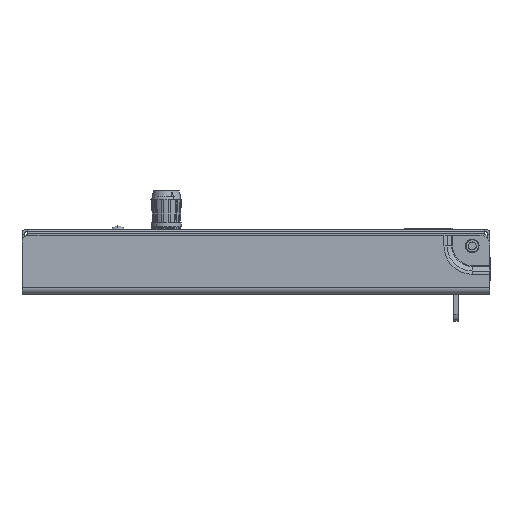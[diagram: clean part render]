
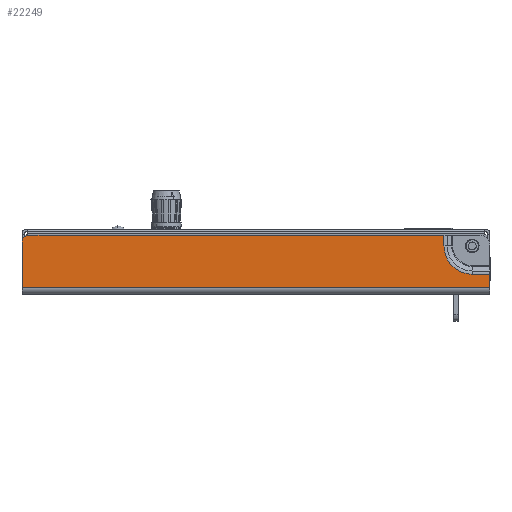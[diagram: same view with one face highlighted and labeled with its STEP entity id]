
A CAD part, left-side view. The second image highlights one B-rep face of the part: STEP entity #22249.
In plain terms, the highlighted planar face has unit normal (-1, 0, 0).
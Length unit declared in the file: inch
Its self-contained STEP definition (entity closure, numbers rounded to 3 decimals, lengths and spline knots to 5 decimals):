
#328 = LINE ( 'NONE', #2134, #6489 ) ;
#1496 = DIRECTION ( 'NONE',  ( 0., 1., 0. ) ) ;
#1876 = EDGE_CURVE ( 'NONE', #25169, #22081, #26589, .T. ) ;
#2134 = CARTESIAN_POINT ( 'NONE',  ( -0.165, 0.8584, -1.11 ) ) ;
#2783 = VERTEX_POINT ( 'NONE', #13319 ) ;
#3261 = DIRECTION ( 'NONE',  ( 0., -1., 0. ) ) ;
#3418 = AXIS2_PLACEMENT_3D ( 'NONE', #26476, #3651, #28695 ) ;
#3601 = PLANE ( 'NONE',  #21148 ) ;
#3651 = DIRECTION ( 'NONE',  ( -1., 0., 0. ) ) ;
#4651 = ORIENTED_EDGE ( 'NONE', *, *, #25671, .F. ) ;
#4796 = CARTESIAN_POINT ( 'NONE',  ( -0.165, 0., -1.09 ) ) ;
#4824 = ORIENTED_EDGE ( 'NONE', *, *, #8398, .F. ) ;
#5810 = FACE_OUTER_BOUND ( 'NONE', #12556, .T. ) ;
#5840 = DIRECTION ( 'NONE',  ( 0., 0., -1. ) ) ;
#6116 = CARTESIAN_POINT ( 'NONE',  ( -0.165, 8.72, -0.11 ) ) ;
#6489 = VECTOR ( 'NONE', #6579, 39.37008 ) ;
#6579 = DIRECTION ( 'NONE',  ( 0., 0., -1. ) ) ;
#6886 = VECTOR ( 'NONE', #22677, 39.37008 ) ;
#7122 = VERTEX_POINT ( 'NONE', #15969 ) ;
#7208 = ORIENTED_EDGE ( 'NONE', *, *, #17037, .F. ) ;
#7318 = EDGE_CURVE ( 'NONE', #29050, #26933, #11208, .T. ) ;
#8067 = LINE ( 'NONE', #19465, #12601 ) ;
#8398 = EDGE_CURVE ( 'NONE', #16644, #29050, #16190, .T. ) ;
#8596 = CARTESIAN_POINT ( 'NONE',  ( -0.165, 0., -0.8384 ) ) ;
#8649 = CARTESIAN_POINT ( 'NONE',  ( -0.165, 8.72, -1.09 ) ) ;
#8727 = EDGE_CURVE ( 'NONE', #9984, #7122, #13840, .T. ) ;
#9984 = VERTEX_POINT ( 'NONE', #21973 ) ;
#10356 = CARTESIAN_POINT ( 'NONE',  ( -0.165, 8.72, -0.11 ) ) ;
#10411 = CARTESIAN_POINT ( 'NONE',  ( -0.165, 8.59, -0.24 ) ) ;
#10558 = DIRECTION ( 'NONE',  ( 0., 1., 0. ) ) ;
#10903 = CARTESIAN_POINT ( 'NONE',  ( -0.165, 0.33, -0.8384 ) ) ;
#11208 = LINE ( 'NONE', #13287, #18491 ) ;
#12556 = EDGE_LOOP ( 'NONE', ( #4651, #24402, #23463, #28002, #26288, #27287, #4824, #7208 ) ) ;
#12601 = VECTOR ( 'NONE', #5840, 39.37008 ) ;
#13287 = CARTESIAN_POINT ( 'NONE',  ( -0.165, 1.33, -0.8384 ) ) ;
#13319 = CARTESIAN_POINT ( 'NONE',  ( -0.165, 0.8584, -0.11 ) ) ;
#13553 = VECTOR ( 'NONE', #10558, 39.37008 ) ;
#13840 = CIRCLE ( 'NONE', #18097, 0.13 ) ;
#15359 = DIRECTION ( 'NONE',  ( 0., -1., 0. ) ) ;
#15969 = CARTESIAN_POINT ( 'NONE',  ( -0.165, 8.72, -0.24 ) ) ;
#16190 = CIRCLE ( 'NONE', #3418, 0.5284 ) ;
#16644 = VERTEX_POINT ( 'NONE', #27545 ) ;
#17037 = EDGE_CURVE ( 'NONE', #2783, #16644, #328, .T. ) ;
#18097 = AXIS2_PLACEMENT_3D ( 'NONE', #10411, #21529, #28212 ) ;
#18491 = VECTOR ( 'NONE', #15359, 39.37008 ) ;
#19465 = CARTESIAN_POINT ( 'NONE',  ( -0.165, 8.72, -0.11 ) ) ;
#20993 = EDGE_CURVE ( 'NONE', #26933, #25169, #26685, .T. ) ;
#21148 = AXIS2_PLACEMENT_3D ( 'NONE', #6116, #25968, #1496 ) ;
#21529 = DIRECTION ( 'NONE',  ( -1., 0., 0. ) ) ;
#21973 = CARTESIAN_POINT ( 'NONE',  ( -0.165, 8.59, -0.11 ) ) ;
#22081 = VERTEX_POINT ( 'NONE', #28979 ) ;
#22249 = ADVANCED_FACE ( 'NONE', ( #5810 ), #3601, .T. ) ;
#22677 = DIRECTION ( 'NONE',  ( 0., 0., -1. ) ) ;
#23463 = ORIENTED_EDGE ( 'NONE', *, *, #26578, .T. ) ;
#23998 = LINE ( 'NONE', #10356, #24380 ) ;
#24380 = VECTOR ( 'NONE', #3261, 39.37008 ) ;
#24402 = ORIENTED_EDGE ( 'NONE', *, *, #8727, .T. ) ;
#24600 = CARTESIAN_POINT ( 'NONE',  ( -0.165, 0., -0.11 ) ) ;
#25169 = VERTEX_POINT ( 'NONE', #4796 ) ;
#25671 = EDGE_CURVE ( 'NONE', #9984, #2783, #23998, .T. ) ;
#25968 = DIRECTION ( 'NONE',  ( -1., 0., 0. ) ) ;
#26288 = ORIENTED_EDGE ( 'NONE', *, *, #20993, .F. ) ;
#26476 = CARTESIAN_POINT ( 'NONE',  ( -0.165, 0.33, -0.31 ) ) ;
#26578 = EDGE_CURVE ( 'NONE', #7122, #22081, #8067, .T. ) ;
#26589 = LINE ( 'NONE', #8649, #13553 ) ;
#26685 = LINE ( 'NONE', #24600, #6886 ) ;
#26933 = VERTEX_POINT ( 'NONE', #8596 ) ;
#27287 = ORIENTED_EDGE ( 'NONE', *, *, #7318, .F. ) ;
#27545 = CARTESIAN_POINT ( 'NONE',  ( -0.165, 0.8584, -0.31 ) ) ;
#28002 = ORIENTED_EDGE ( 'NONE', *, *, #1876, .F. ) ;
#28212 = DIRECTION ( 'NONE',  ( 0., -1., 0. ) ) ;
#28695 = DIRECTION ( 'NONE',  ( 0., -1., 0. ) ) ;
#28979 = CARTESIAN_POINT ( 'NONE',  ( -0.165, 8.72, -1.09 ) ) ;
#29050 = VERTEX_POINT ( 'NONE', #10903 ) ;
